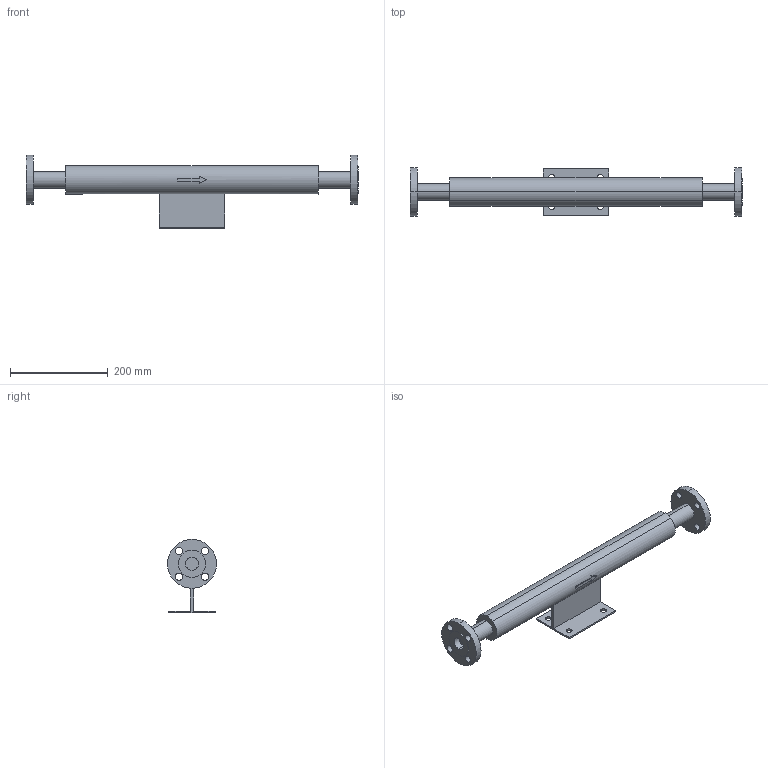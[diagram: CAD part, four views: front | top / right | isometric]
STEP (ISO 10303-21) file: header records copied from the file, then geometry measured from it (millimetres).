
FILE_DESCRIPTION( (''), '2;1');
FILE_NAME ('PC1027.10420.EB-2J　20A_2079.stp','2025-07-29T14:14:25',(''),(''),'spGate 20.6.3 (****-****-****-****)','','');
FILE_SCHEMA (('AUTOMOTIVE_DESIGN'));
Length unit declared in the file: millimetre
Bounding box: 680 x 100 x 150 mm (x, y, z)
Volume: 1783484.3 mm3; surface area: 200443.9 mm2
Topology: 1 solids, 1 shells, 77 faces, 194 edges, 130 vertices
Faces by surface type: cylinder 42, plane 35
Entity records: 3921 total; most frequent: CARTESIAN_POINT 451, DIRECTION 396, ORIENTED_EDGE 388, COLOUR_RGB 272, PRESENTATION_STYLE_ASSIGNMENT 272, STYLED_ITEM 272, EDGE_CURVE 194, DRAUGHTING_PRE_DEFINED_CURVE_FONT 194
